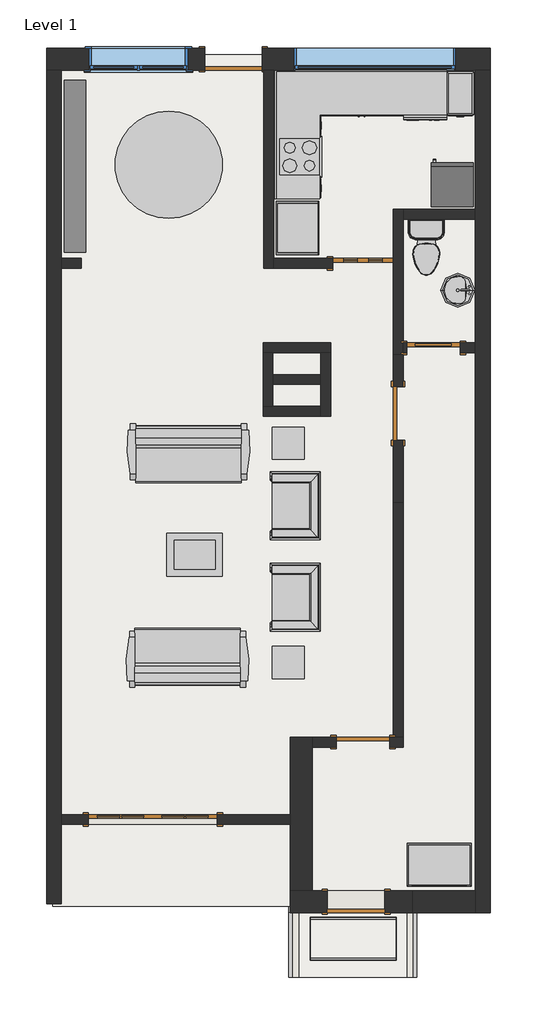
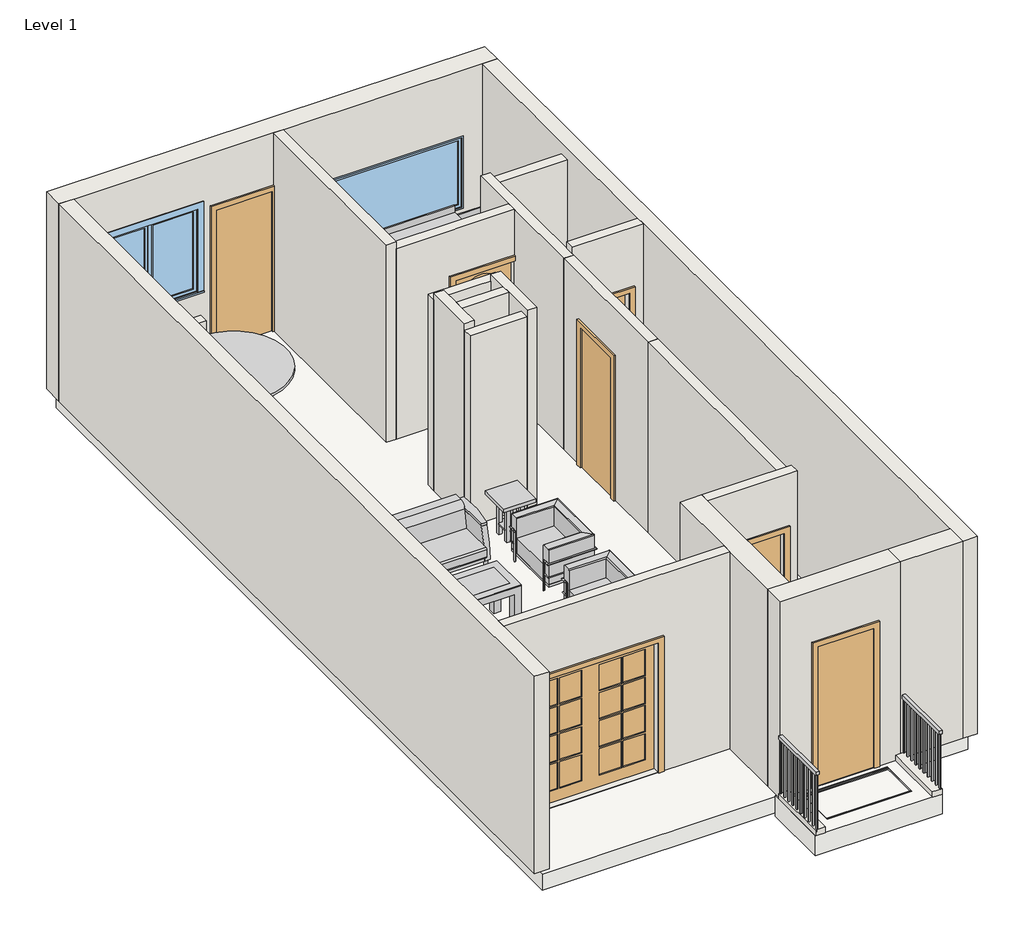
# One storey, incomplete: 23 walls, 16 furniture elements, 7 doors, 5 proxies, 3 slabs, 2 flow terminals, 2 railings, 2 windows.
"""IFC4 building model written with IfcOpenShell, lengths in millimetres."""

from ifc_helpers import new_model, si_unit, frame, origin, origin_with_axes, place, context, project, spatial, polyline, outline, extrude, faceted_brep, transform, mapped, element, save
from components import proxy_a6faaae8, proxy_19aded4c, proxy_34c9623a, proxy_66164f77, walk_off_mat_walk_off_mat_25c2b8c1, m_double_glass_2_1830_x_1981mm_ddff6fa9, door_17772045, door_cd3018f3, door_3bbbd0d9, door_44d7dd15, flow_terminal_d49f872f, toilet_domestic_3d_toilet_domestic_3d_f7549cf7, toilet_domestic_3d_toilet_domestic_3d_183bbd19, furniture_124a5a4a, furniture_03bd3035, furniture_631763f9, chair_corbu_chair_corbu_2764bdef, furniture_1b3be55e, furniture_b1da5ad0, furniture_ad7727fe, furniture_5f90431c, furniture_6c1a5aef, furniture_097b63cf, furniture_fb6977ac, furniture_ffaa0446, handrail_rectangular_64536371, handrail_rectangular_4e646063, window_746a537f, m_casement_dbl_with_trim_d4e5bdbe

model = new_model("IFC4")

# Units and contexts
model_context = context("Model", 3, world=origin())
ifc_project = project(units=[si_unit("LENGTHUNIT", "METRE", prefix="MILLI")], contexts=[model_context])

# Site, building, storey
site = spatial("IfcSite", under=ifc_project)
building = spatial("IfcBuilding", under=site)
storey = spatial("IfcBuildingStorey", under=building, Name="Level 1", Elevation=0.0)

# Proxies
placement = place(None, origin())
proxy_shape = proxy_a6faaae8(model_context)
element("IfcBuildingElementProxy", 1, Name="Cook Top-4 Unit2 : 22\" x 20\"", ObjectType="Cook Top-4 Unit2 : 22\" x 20\"", at=placement, inside=storey, context=model_context, shape_type="MappedRepresentation", body=[
    mapped(proxy_shape, transform((-12696.4909741, 13913.6793907, -20.0), x_axis=(1.0, 0.0, 0.0), y_axis=(0.0, 1.0, 0.0), z_axis=(0.0, 0.0, 1.0))),
])
proxy_2_shape = proxy_19aded4c(model_context)
element("IfcBuildingElementProxy", 2, Name="Dishwasher : 24\" x 26 1/4\" x 34 1/2\"", ObjectType="Dishwasher : 24\" x 26 1/4\" x 34 1/2\"", at=placement, inside=storey, context=model_context, shape_type="MappedRepresentation", body=[
    mapped(proxy_2_shape, transform((-11293.6084426, 14487.8808544, -20.0), x_axis=(1.0000000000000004, 0.0, 0.0), y_axis=(0.0, 1.0000000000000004, 0.0), z_axis=(0.0, 0.0, 1.0))),
])
proxy_3_shape = proxy_34c9623a(model_context)
element("IfcBuildingElementProxy", 3, Name="Oven Single-Built-in : 21\" x 23 1/2\" x 21\"", ObjectType="Oven Single-Built-in : 21\" x 23 1/2\" x 21\"", at=placement, inside=storey, context=model_context, shape_type="MappedRepresentation", body=[
    mapped(proxy_3_shape, transform((-12555.4251152, 13948.854318, -65.0), x_axis=(0.0, 1.0, 0.0), y_axis=(-1.0, 0.0, 0.0), z_axis=(0.0, 0.0, 1.0))),
])
proxy_4_shape = proxy_66164f77(model_context)
element("IfcBuildingElementProxy", 4, Name="Refrigerator : 24\" x 25\" RH", ObjectType="Refrigerator : 24\" x 25\" RH", at=placement, inside=storey, context=model_context, shape_type="MappedRepresentation", body=[
    mapped(proxy_4_shape, transform((-10527.9420026, 13500.5293907, -20.0), x_axis=(-1.0, 0.0, 0.0), y_axis=(0.0, -1.0, 0.0), z_axis=(0.0, 0.0, 1.0))),
])
walk_off_mat_walk_off_mat_shape = walk_off_mat_walk_off_mat_25c2b8c1(model_context)
element("IfcBuildingElementProxy", 5, Name="Walk-Off Mat : Walk-Off Mat", ObjectType="Walk-Off Mat : Walk-Off Mat", at=placement, inside=storey, context=model_context, shape_type="MappedRepresentation", body=[
    mapped(walk_off_mat_walk_off_mat_shape, transform((-11539.3555125, 3554.7734577, 0.0), x_axis=(1.0, 0.0, 0.0), y_axis=(0.0, 1.0, 0.0), z_axis=(0.0, 0.0, 1.0))),
])

# Doors
m_double_glass_2_1830_x_1981mm_shape = m_double_glass_2_1830_x_1981mm_ddff6fa9(model_context)
element("IfcDoor", 6, ObjectType="M_Double-Glass 2 : 1830 x 1981mm", at=placement, inside=storey, context=model_context, shape_type="MappedRepresentation", body=[
    mapped(m_double_glass_2_1830_x_1981mm_shape, transform((-14780.6909741, 4498.6793907, 10.0), x_axis=(1.0, 0.0, 0.0), y_axis=(0.0, 1.0, 0.0), z_axis=(0.0, 0.0, 1.0))),
])
door_shape = door_17772045(model_context)
element("IfcDoor", 7, ObjectType="Single-Decorative 2 : 34\" x 80\"", at=placement, inside=storey, context=model_context, shape_type="MappedRepresentation", body=[
    mapped(door_shape, transform((-11796.4909741, 12398.6793907, 0.0), x_axis=(1.0, 0.0, 0.0), y_axis=(0.0, 1.0, 0.0), z_axis=(0.0, 0.0, 1.0))),
])
door_2_shape = door_cd3018f3(model_context)
element("IfcDoor", 8, ObjectType="Single-Flush : 30\" x 84\"", at=placement, inside=storey, context=model_context, shape_type="MappedRepresentation", body=[
    mapped(door_2_shape, transform((-11796.4909741, 5598.6793907, 0.0), x_axis=(1.0, 0.0, 0.0), y_axis=(0.0, 1.0, 0.0), z_axis=(0.0, 0.0, 1.0))),
])
element("IfcDoor", 9, ObjectType="Single-Flush : 30\" x 84\"", at=placement, inside=storey, context=model_context, shape_type="MappedRepresentation", body=[
    mapped(door_2_shape, transform((-11296.4909741, 10268.6793907, 0.0), x_axis=(0.0, 1.0, 0.0), y_axis=(-1.0, 0.0, 0.0), z_axis=(0.0, 0.0, 1.0))),
])
door_3_shape = door_3bbbd0d9(model_context)
element("IfcDoor", 10, ObjectType="Single-Flush : 32\" x 84\"", at=placement, inside=storey, context=model_context, shape_type="MappedRepresentation", body=[
    mapped(door_3_shape, transform((-11894.8909741, 3330.2793907, 10.0), x_axis=(1.0, 0.0, 0.0), y_axis=(0.0, 1.0, 0.0), z_axis=(0.0, 0.0, 1.0))),
])
element("IfcDoor", 11, ObjectType="Single-Flush : 32\" x 84\"", at=placement, inside=storey, context=model_context, shape_type="MappedRepresentation", body=[
    mapped(door_3_shape, transform((-13636.4909741, 15298.6793907, 0.0), x_axis=(1.0, 0.0, 0.0), y_axis=(0.0, 1.0, 0.0), z_axis=(0.0, 0.0, 1.0))),
])
door_4_shape = door_44d7dd15(model_context)
element("IfcDoor", 12, ObjectType="Single-Panel 1 : 30\" x 80\"", at=placement, inside=storey, context=model_context, shape_type="MappedRepresentation", body=[
    mapped(door_4_shape, transform((-10796.4909741, 11198.6793907, 0.0), x_axis=(-1.0, 0.0, 0.0), y_axis=(0.0, -1.0, 0.0), z_axis=(0.0, 0.0, 1.0))),
])

# Flow terminals
flow_terminal_shape = flow_terminal_d49f872f(model_context)
element("IfcFlowTerminal", 13, ObjectType="Sink Vanity-Round : 19\" x 19\"", at=placement, inside=storey, context=model_context, shape_type="MappedRepresentation", body=[
    mapped(flow_terminal_shape, transform((-10534.9217522, 12115.3311312, -20.0), x_axis=(0.0, -1.0, 0.0), y_axis=(1.0, 0.0, 0.0), z_axis=(0.0, 0.0, 1.0))),
])
toilet_domestic_3d_toilet_domestic_3d_shape = toilet_domestic_3d_toilet_domestic_3d_f7549cf7(model_context)
toilet_domestic_3d_toilet_domestic_3d_2_shape = toilet_domestic_3d_toilet_domestic_3d_183bbd19(model_context)
element("IfcFlowTerminal", 14, ObjectType="Toilet-Domestic-3D : Toilet-Domestic-3D", at=placement, inside=storey, context=model_context, shape_type="MappedRepresentation", body=[
    mapped(toilet_domestic_3d_toilet_domestic_3d_shape, transform((-10896.4909741, 12533.9833633, -20.0), x_axis=(1.0, 0.0, 0.0), y_axis=(0.0, 1.0, 0.0), z_axis=(0.0, 0.0, 1.0))),
    mapped(toilet_domestic_3d_toilet_domestic_3d_2_shape, transform((-10896.4909741, 12533.9833633, -20.0), x_axis=(1.0, 0.0, 0.0), y_axis=(0.0, 1.0, 0.0), z_axis=(0.0, 0.0, 1.0))),
])

# Furniture
furniture_shape = furniture_124a5a4a(model_context)
element("IfcFurniture", 15, ObjectType="Base Cabinet-2 Bin : 15\"", at=placement, inside=storey, context=model_context, shape_type="MappedRepresentation", body=[
    mapped(furniture_shape, transform((-10431.3286791, 15118.2793907, -20.0), x_axis=(1.0, 0.0, 0.0), y_axis=(0.0, 1.0, 0.0), z_axis=(0.0, 0.0, 1.0))),
])
furniture_2_shape = furniture_03bd3035(model_context)
element("IfcFurniture", 16, ObjectType="Base Cabinet-4 Drawers : 12\"", at=placement, inside=storey, context=model_context, shape_type="MappedRepresentation", body=[
    mapped(furniture_2_shape, transform((-13021.7409741, 13448.5416857, -20.0), x_axis=(0.0, 1.0, 0.0), y_axis=(-1.0, 0.0, 0.0), z_axis=(0.0, 0.0, 1.0))),
])
element("IfcFurniture", 17, ObjectType="Base Cabinet-4 Drawers : 12\"", at=placement, inside=storey, context=model_context, shape_type="MappedRepresentation", body=[
    mapped(furniture_2_shape, transform((-13021.0909741, 14339.4416857, -20.0), x_axis=(0.0, 1.0, 0.0), y_axis=(-1.0, 0.0, 0.0), z_axis=(0.0, 0.0, 1.0))),
])
furniture_3_shape = furniture_631763f9(model_context)
element("IfcFurniture", 18, ObjectType="Base Cabinet-Double Door Sink Unit : 48\"", at=placement, inside=storey, context=model_context, shape_type="MappedRepresentation", body=[
    mapped(furniture_3_shape, transform((-11834.4286791, 15118.2793907, -20.0), x_axis=(1.0, 0.0, 0.0), y_axis=(0.0, 1.0, 0.0), z_axis=(0.0, 0.0, 1.0))),
])
chair_corbu_chair_corbu_shape = chair_corbu_chair_corbu_2764bdef(model_context)
element("IfcFurniture", 19, ObjectType="Chair-Corbu : Chair-Corbu", at=placement, inside=storey, context=model_context, shape_type="MappedRepresentation", body=[
    mapped(chair_corbu_chair_corbu_shape, transform((-13223.0680233, 9529.2531612, -20.0), x_axis=(0.0, -1.0, 0.0), y_axis=(1.0, 0.0, 0.0), z_axis=(0.0, 0.0, 1.0))),
])
element("IfcFurniture", 20, ObjectType="Chair-Corbu : Chair-Corbu", at=placement, inside=storey, context=model_context, shape_type="MappedRepresentation", body=[
    mapped(chair_corbu_chair_corbu_shape, transform((-13223.0680233, 8229.2531612, -20.0), x_axis=(0.0, -1.0, 0.0), y_axis=(1.0, 0.0, 0.0), z_axis=(0.0, 0.0, 1.0))),
])
furniture_4_shape = furniture_1b3be55e(model_context)
element("IfcFurniture", 21, ObjectType="Counter Top-L Shaped : 24\" Depth", at=placement, inside=storey, context=model_context, shape_type="MappedRepresentation", body=[
    mapped(furniture_4_shape, transform((-11846.0286791, 15143.6793907, -20.0), x_axis=(1.0, 0.0, 0.0), y_axis=(0.0, 1.0, 0.0), z_axis=(0.0, 0.0, 1.0))),
])
furniture_5_shape = furniture_b1da5ad0(model_context)
element("IfcFurniture", 22, ObjectType="Shelving : 96\" x 12\" x 84\"", at=placement, inside=storey, context=model_context, shape_type="MappedRepresentation", body=[
    mapped(furniture_5_shape, transform((-16193.8909741, 13779.4793907, -20.0), x_axis=(0.0, 1.0, 0.0), y_axis=(-1.0, 0.0, 0.0), z_axis=(0.0, 0.0, 1.0))),
])
furniture_6_shape = furniture_ad7727fe(model_context)
element("IfcFurniture", 23, ObjectType="Sofa-Pensi : 65\"", at=placement, inside=storey, context=model_context, shape_type="MappedRepresentation", body=[
    mapped(furniture_6_shape, transform((-14555.0972241, 9421.5695546, -20.0), x_axis=(1.0, 0.0, 0.0), y_axis=(0.0, 1.0, 0.0), z_axis=(0.0, 0.0, 1.0))),
])
element("IfcFurniture", 24, ObjectType="Sofa-Pensi : 65\"", at=placement, inside=storey, context=model_context, shape_type="MappedRepresentation", body=[
    mapped(furniture_6_shape, transform((-14008.4347241, 7075.7892267, -20.0), x_axis=(-1.0, 0.0, 0.0), y_axis=(0.0, -1.0, 0.0), z_axis=(0.0, 0.0, 1.0))),
])
furniture_7_shape = furniture_5f90431c(model_context)
element("IfcFurniture", 25, ObjectType="Table-Coffee : 31\" x 28\" x 24\"", at=placement, inside=storey, context=model_context, shape_type="MappedRepresentation", body=[
    mapped(furniture_7_shape, transform((-14093.3330222, 8242.2115834, -20.0), x_axis=(0.0, 1.0, 0.0), y_axis=(-1.0, 0.0, 0.0), z_axis=(0.0, 0.0, 1.0))),
])
furniture_8_shape = furniture_6c1a5aef(model_context)
element("IfcFurniture", 26, ObjectType="Table-Dining Round w Chairs : 60\" Diameter", at=placement, inside=storey, context=model_context, shape_type="MappedRepresentation", body=[
    mapped(furniture_8_shape, transform((-14660.1729413, 13983.5580792, -20.0), x_axis=(1.0, 0.0, 0.0), y_axis=(0.0, 1.0, 0.0), z_axis=(0.0, 0.0, 1.0))),
])
furniture_9_shape = furniture_097b63cf(model_context)
element("IfcFurniture", 27, ObjectType="Table-Night Stand : 18\" x 18\" x 24\"", at=placement, inside=storey, context=model_context, shape_type="MappedRepresentation", body=[
    mapped(furniture_9_shape, transform((-13090.2246044, 6501.4793907, -20.0), x_axis=(1.0, 0.0, 0.0), y_axis=(0.0, 1.0, 0.0), z_axis=(0.0, 0.0, 1.0))),
])
element("IfcFurniture", 28, ObjectType="Table-Night Stand : 18\" x 18\" x 24\"", at=placement, inside=storey, context=model_context, shape_type="MappedRepresentation", body=[
    mapped(furniture_9_shape, transform((-13090.2246044, 9613.8793907, -20.0), x_axis=(1.0, 0.0, 0.0), y_axis=(0.0, 1.0, 0.0), z_axis=(0.0, 0.0, 1.0))),
])
furniture_10_shape = furniture_fb6977ac(model_context)
element("IfcFurniture", 29, ObjectType="Tall Cabinet-2 Door-Built in : 30\"", at=placement, inside=storey, context=model_context, shape_type="MappedRepresentation", body=[
    mapped(furniture_10_shape, transform((-13031.7409741, 12881.4916857, -20.0), x_axis=(0.0, 1.0, 0.0), y_axis=(-1.0, 0.0, 0.0), z_axis=(0.0, 0.0, 1.0))),
])
furniture_11_shape = furniture_ffaa0446(model_context)
element("IfcFurniture", 30, ObjectType="Tall Cabinet-Single Door(2) : 36\"", at=placement, inside=storey, context=model_context, shape_type="MappedRepresentation", body=[
    mapped(furniture_11_shape, transform((-10693.9532692, 4158.6793907, -20.0), x_axis=(-1.0, 0.0, 0.0), y_axis=(0.0, -1.0, 0.0), z_axis=(0.0, 0.0, 1.0))),
])

# Railings
handrail_rectangular_shape = handrail_rectangular_64536371(model_context)
element("IfcRailing", 31, ObjectType="Handrail - Rectangular", at=placement, inside=storey, context=model_context, shape_type="MappedRepresentation", body=[
    mapped(handrail_rectangular_shape, transform((0.0, 0.0, 0.0), x_axis=(1.0, 0.0, 0.0), y_axis=(0.0, 1.0, 0.0), z_axis=(0.0, 0.0, 1.0))),
])
handrail_rectangular_2_shape = handrail_rectangular_4e646063(model_context)
element("IfcRailing", 32, ObjectType="Handrail - Rectangular", at=placement, inside=storey, context=model_context, shape_type="MappedRepresentation", body=[
    mapped(handrail_rectangular_2_shape, transform((0.0, 0.0, 0.0), x_axis=(1.0, 0.0, 0.0), y_axis=(0.0, 1.0, 0.0), z_axis=(0.0, 0.0, 1.0))),
])

# Slabs
element("IfcSlab", 33, ObjectType="döşeme", at=placement, inside=storey, context=model_context, shape_type="SweptSolid", body=[
    extrude(outline(polyline([(-10081.4909741, 15363.6793907), (-10081.4909741, 3265.2793907), (-12694.8909741, 3265.2793907), (-16201.4909741, 3265.2793907), (-16201.4909741, 15363.6793907), (-10081.4909741, 15363.6793907)]), holes=[polyline([(-12396.4909741, 11128.6793907), (-13076.4909741, 11128.6793907), (-13076.4909741, 10818.6793907), (-12396.4909741, 10818.6793907), (-12396.4909741, 11128.6793907)]), polyline([(-13076.4909741, 10678.6793907), (-13076.4909741, 10368.6793907), (-12396.4909741, 10368.6793907), (-12396.4909741, 10678.6793907), (-13076.4909741, 10678.6793907)])]), frame((0.0, 0.0, -262.0), z_axis=(0.0, 0.0, 1.0), x_axis=(1.0, 0.0, 0.0)), (0.0, 0.0, 1.0), 242.0),
])
element("IfcSlab", 34, ObjectType="Generic - 12\"", at=placement, inside=storey, context=model_context, shape_type="Brep", body=[
    faceted_brep([(-12849.8909741, 2259.3790009, -304.8), (-12849.8909741, 3259.3790009, -304.8), (-11029.8909741, 3259.3790009, -304.8), (-11029.8909741, 2259.3790009, -304.8), (-12849.8909741, 2259.3790009, 0.0), (-11029.8909741, 2259.3790009, 0.0), (-11029.8909741, 3259.3790009, 0.0), (-12849.8909741, 3259.3790009, 0.0), (-12542.3909741, 3110.2793907, 0.0), (-11323.1909741, 3110.2793907, 0.0), (-11323.1909741, 2500.6793907, 0.0), (-12542.3909741, 2500.6793907, 0.0), (-11323.1909741, 3110.2793907, -25.4), (-12542.3909741, 3110.2793907, -25.4), (-12542.3909741, 2500.6793907, -25.4), (-11323.1909741, 2500.6793907, -25.4)], [[[0, 1, 2, 3]], [[4, 5, 6, 7], [8, 9, 10, 11]], [[1, 0, 4, 7]], [[2, 1, 7, 6]], [[3, 2, 6, 5]], [[0, 3, 5, 4]], [[12, 13, 14, 15]], [[13, 12, 9, 8]], [[14, 13, 8, 11]], [[15, 14, 11, 10]], [[12, 15, 10, 9]]]),
])
element("IfcSlab", 35, ObjectType="Generic - 12\"", at=placement, inside=storey, context=model_context, shape_type="SweptSolid", body=[
    extrude(outline(polyline([(-12396.4909741, 11128.6793907), (-12396.4909741, 10818.6793907), (-13076.4909741, 10818.6793907), (-13076.4909741, 11128.6793907), (-12396.4909741, 11128.6793907)])), frame((0.0, 0.0, -304.8), z_axis=(0.0, 0.0, 1.0), x_axis=(1.0, 0.0, 0.0)), (0.0, 0.0, 1.0), 304.8),
    extrude(outline(polyline([(-12396.4909741, 10678.6793907), (-12396.4909741, 10368.6793907), (-13076.4909741, 10368.6793907), (-13076.4909741, 10678.6793907), (-12396.4909741, 10678.6793907)])), frame((0.0, 0.0, -304.8), z_axis=(0.0, 0.0, 1.0), x_axis=(1.0, 0.0, 0.0)), (0.0, 0.0, 1.0), 304.8),
])

# Walls
element("IfcWall", 36, ObjectType="dışduvarlar", at=placement, inside=storey, context=model_context, shape_type="Brep", body=[
    faceted_brep([(-13230.0909741, 15143.6793907, 2133.6), (-13230.0909741, 15143.6793907, 0.0), (-13206.4909741, 15143.6793907, 0.0), (-13066.4909741, 15143.6793907, 0.0), (-10201.4909741, 15143.6793907, 0.0), (-9991.4909741, 15143.6793907, 0.0), (-9991.4909741, 15143.6793907, 3000.0), (-10201.4909741, 15143.6793907, 3000.0), (-13066.4909741, 15143.6793907, 3000.0), (-13206.4909741, 15143.6793907, 3000.0), (-16081.4909741, 15143.6793907, 3000.0), (-16291.4909741, 15143.6793907, 3000.0), (-16291.4909741, 15143.6793907, 0.0), (-16081.4909741, 15143.6793907, 0.0), (-14042.8909741, 15143.6793907, 0.0), (-14042.8909741, 15143.6793907, 2133.6), (-12776.4909741, 15143.6793907, 2000.0), (-10476.4909741, 15143.6793907, 2000.0), (-10476.4909741, 15143.6793907, 900.0), (-12776.4909741, 15143.6793907, 900.0), (-15686.4909741, 15143.6793907, 2250.0), (-14286.4909741, 15143.6793907, 2250.0), (-14286.4909741, 15143.6793907, 950.0), (-15686.4909741, 15143.6793907, 950.0), (-9991.4909741, 15453.6793907, 0.0), (-13230.0909741, 15453.6793907, 0.0), (-13230.0909741, 15453.6793907, 2133.6), (-14042.8909741, 15453.6793907, 2133.6), (-14042.8909741, 15453.6793907, 0.0), (-16291.4909741, 15453.6793907, 0.0), (-16291.4909741, 15453.6793907, 3000.0), (-9991.4909741, 15453.6793907, 3000.0), (-12776.4909741, 15453.6793907, 2000.0), (-12776.4909741, 15453.6793907, 900.0), (-10476.4909741, 15453.6793907, 900.0), (-10476.4909741, 15453.6793907, 2000.0), (-15686.4909741, 15453.6793907, 2250.0), (-15686.4909741, 15453.6793907, 950.0), (-14286.4909741, 15453.6793907, 950.0), (-14286.4909741, 15453.6793907, 2250.0)], [[[0, 1, 2, 3, 4, 5, 6, 7, 8, 9, 10, 11, 12, 13, 14, 15], [16, 17, 18, 19], [20, 21, 22, 23]], [[24, 25, 26, 27, 28, 29, 30, 31], [32, 33, 34, 35], [36, 37, 38, 39]], [[14, 13, 12, 29, 28]], [[5, 4, 3, 2, 1, 25, 24]], [[11, 10, 9, 8, 7, 6, 31, 30]], [[6, 5, 24, 31]], [[12, 11, 30, 29]], [[33, 32, 16, 19]], [[34, 33, 19, 18]], [[35, 34, 18, 17]], [[32, 35, 17, 16]], [[26, 25, 1, 0]], [[27, 26, 0, 15]], [[28, 27, 15, 14]], [[37, 36, 20, 23]], [[38, 37, 23, 22]], [[39, 38, 22, 21]], [[36, 39, 21, 20]]]),
])
element("IfcWall", 37, ObjectType="dışduvarlar 2", at=placement, inside=storey, context=model_context, shape_type="Brep", body=[
    faceted_brep([(-10201.4909741, 15143.6793907, 0.0), (-10201.4909741, 13168.6793907, 0.0), (-10201.4909741, 13028.6793907, 0.0), (-10201.4909741, 11268.6793907, 0.0), (-10201.4909741, 11128.6793907, 0.0), (-10201.4909741, 3485.2793907, 0.0), (-10201.4909741, 3175.2793907, 0.0), (-10201.4909741, 3175.2793907, 3000.0), (-10201.4909741, 3485.2793907, 3000.0), (-10201.4909741, 11128.6793907, 3000.0), (-10201.4909741, 11268.6793907, 3000.0), (-10201.4909741, 15143.6793907, 3000.0), (-9991.4909741, 15143.6793907, 0.0), (-9991.4909741, 15143.6793907, 3000.0), (-9991.4909741, 3175.2793907, 3000.0), (-9991.4909741, 3175.2793907, 0.0)], [[[0, 1, 2, 3, 4, 5, 6, 7, 8, 9, 10, 11]], [[12, 13, 14, 15]], [[6, 5, 4, 3, 2, 1, 0, 12, 15]], [[11, 10, 9, 8, 7, 14, 13]], [[7, 6, 15, 14]], [[0, 11, 13, 12]]]),
])
element("IfcWall", 38, ObjectType="dışduvarlar", at=placement, inside=storey, context=model_context, shape_type="Brep", body=[
    faceted_brep([(-10201.4909741, 3485.2793907, 0.0), (-11099.8909741, 3485.2793907, 0.0), (-11099.8909741, 3485.2793907, 3000.0), (-10201.4909741, 3485.2793907, 3000.0), (-10201.4909741, 3175.2793907, 0.0), (-10201.4909741, 3175.2793907, 3000.0), (-11099.8909741, 3175.2793907, 3000.0), (-11099.8909741, 3175.2793907, 0.0), (-11029.8909741, 3175.2793907, 0.0)], [[[0, 1, 2, 3]], [[4, 5, 6, 7, 8]], [[1, 0, 4, 8, 7]], [[3, 2, 6, 5]], [[0, 3, 5, 4]], [[1, 7, 6, 2]]]),
])
element("IfcWall", 39, ObjectType="dışduvarlar 2", at=placement, inside=storey, context=model_context, shape_type="Brep", body=[
    faceted_brep([(-16081.4909741, 3298.6793907, 0.0), (-16081.4909741, 4428.6793907, 0.0), (-16081.4909741, 4568.6793907, 0.0), (-16081.4909741, 12328.6793907, 0.0), (-16081.4909741, 12468.6793907, 0.0), (-16081.4909741, 15143.6793907, 0.0), (-16081.4909741, 15143.6793907, 3000.0), (-16081.4909741, 4568.6793907, 3000.0), (-16081.4909741, 4428.6793907, 3000.0), (-16081.4909741, 3298.6793907, 3000.0), (-16291.4909741, 3298.6793907, 0.0), (-16291.4909741, 3298.6793907, 3000.0), (-16291.4909741, 15143.6793907, 3000.0), (-16291.4909741, 15143.6793907, 0.0)], [[[0, 1, 2, 3, 4, 5, 6, 7, 8, 9]], [[10, 11, 12, 13]], [[5, 4, 3, 2, 1, 0, 10, 13]], [[9, 8, 7, 6, 12, 11]], [[0, 9, 11, 10]], [[6, 5, 13, 12]]]),
])
element("IfcWall", 40, ObjectType="içduvar", at=placement, inside=storey, context=model_context, shape_type="SweptSolid", body=[
    extrude(outline(polyline([(0.0, -16081.4909741), (0.0, -12827.3909741), (3000.0, -12827.3909741), (3000.0, -16081.4909741), (0.0, -16081.4909741)]), holes=[polyline([(1991.0, -13865.6909741), (10.0, -13865.6909741), (10.0, -15695.6909741), (1991.0, -15695.6909741), (1991.0, -13865.6909741)])]), frame((0.0, 4428.6793907, 0.0), z_axis=(0.0, 1.0, 0.0), x_axis=(0.0, 0.0, 1.0)), (0.0, 0.0, 1.0), 140.0),
])
element("IfcWall", 41, ObjectType="dışduvarlar", at=placement, inside=storey, context=model_context, shape_type="Brep", body=[
    faceted_brep([(-12517.3909741, 3485.2793907, 3000.0), (-12517.3909741, 3485.2793907, 0.0), (-12517.3909741, 5528.6793907, 0.0), (-12517.3909741, 5668.6793907, 0.0), (-12517.3909741, 5668.6793907, 3000.0), (-12517.3909741, 5528.6793907, 3000.0), (-12827.3909741, 3485.2793907, 0.0), (-12827.3909741, 3485.2793907, 3000.0), (-12827.3909741, 4428.6793907, 3000.0), (-12827.3909741, 4568.6793907, 3000.0), (-12827.3909741, 5668.6793907, 3000.0), (-12827.3909741, 5668.6793907, 0.0), (-12827.3909741, 4568.6793907, 0.0), (-12827.3909741, 4428.6793907, 0.0)], [[[0, 1, 2, 3, 4, 5]], [[6, 7, 8, 9, 10, 11, 12, 13]], [[3, 2, 1, 6, 13, 12, 11]], [[0, 5, 4, 10, 9, 8, 7]], [[4, 3, 11, 10]], [[0, 7, 6, 1]]]),
])
element("IfcWall", 42, ObjectType="içduvar", at=placement, inside=storey, context=model_context, shape_type="Brep", body=[
    faceted_brep([(-11415.4909741, 5528.6793907, 2133.6), (-11415.4909741, 5528.6793907, 0.0), (-11226.4909741, 5528.6793907, 0.0), (-11226.4909741, 5528.6793907, 3000.0), (-12517.3909741, 5528.6793907, 3000.0), (-12517.3909741, 5528.6793907, 0.0), (-12177.4909741, 5528.6793907, 0.0), (-12177.4909741, 5528.6793907, 2133.6), (-11226.4909741, 5668.6793907, 0.0), (-11366.4909741, 5668.6793907, 0.0), (-11415.4909741, 5668.6793907, 0.0), (-11415.4909741, 5668.6793907, 2133.6), (-12177.4909741, 5668.6793907, 2133.6), (-12177.4909741, 5668.6793907, 0.0), (-12517.3909741, 5668.6793907, 0.0), (-12517.3909741, 5668.6793907, 3000.0), (-11226.4909741, 5668.6793907, 3000.0), (-11226.4909741, 5668.6793907, 2900.0)], [[[0, 1, 2, 3, 4, 5, 6, 7]], [[8, 9, 10, 11, 12, 13, 14, 15, 16, 17]], [[2, 1, 10, 9, 8]], [[6, 5, 14, 13]], [[4, 3, 16, 15]], [[5, 4, 15, 14]], [[3, 2, 8, 17, 16]], [[11, 10, 1, 0]], [[12, 11, 0, 7]], [[13, 12, 7, 6]]]),
])
element("IfcWall", 43, ObjectType="içduvar", at=placement, inside=storey, context=model_context, shape_type="SweptSolid", body=[
    extrude(outline(polyline([(-15796.4909741, 12328.6793907), (-16081.4909741, 12328.6793907), (-16081.4909741, 12468.6793907), (-15796.4909741, 12468.6793907), (-15796.4909741, 12328.6793907)])), origin_with_axes(), (0.0, 0.0, 1.0), 2758.0),
])
element("IfcWall", 44, ObjectType="içduvar", at=placement, inside=storey, context=model_context, shape_type="Brep", body=[
    faceted_brep([(-11366.4909741, 11098.6793907, 0.0), (-11366.4909741, 11098.6793907, 2900.0), (-11366.4909741, 12328.6793907, 2900.0), (-11366.4909741, 12468.6793907, 2900.0), (-11366.4909741, 13168.6793907, 2900.0), (-11366.4909741, 13168.6793907, 0.0), (-11366.4909741, 12468.6793907, 0.0), (-11366.4909741, 12468.6793907, 2133.6), (-11366.4909741, 12328.6793907, 2133.6), (-11366.4909741, 12328.6793907, 0.0), (-11226.4909741, 11098.6793907, 0.0), (-11226.4909741, 11128.6793907, 0.0), (-11226.4909741, 11268.6793907, 0.0), (-11226.4909741, 13028.6793907, 0.0), (-11226.4909741, 13168.6793907, 0.0), (-11226.4909741, 13168.6793907, 2826.4715903), (-11226.4909741, 13168.6793907, 2900.0), (-11226.4909741, 11098.6793907, 2900.0), (-11364.6909741, 12328.6793907, 0.0), (-11364.6909741, 12468.6793907, 0.0), (-11364.6909741, 12328.6793907, 2133.6), (-11364.6909741, 12468.6793907, 2133.6)], [[[0, 1, 2, 3, 4, 5, 6, 7, 8, 9]], [[10, 11, 12, 13, 14, 15, 16, 17]], [[14, 13, 12, 11, 10, 0, 9, 18, 19, 6, 5]], [[1, 0, 10, 17]], [[4, 3, 2, 1, 17, 16]], [[5, 4, 16, 15, 14]], [[20, 18, 9, 8]], [[19, 21, 7, 6]], [[18, 20, 21, 19]], [[21, 20, 8, 7]]]),
])
element("IfcWall", 45, ObjectType="içduvar", at=placement, inside=storey, context=model_context, shape_type="Brep", body=[
    faceted_brep([(-13066.4909741, 12328.6793907, 0.0), (-13066.4909741, 12468.6793907, 0.0), (-13066.4909741, 15143.6793907, 0.0), (-13066.4909741, 15143.6793907, 3000.0), (-13066.4909741, 12328.6793907, 3000.0), (-13066.4909741, 12328.6793907, 2900.0), (-13206.4909741, 12328.6793907, 0.0), (-13206.4909741, 12328.6793907, 3000.0), (-13206.4909741, 15143.6793907, 3000.0), (-13206.4909741, 15143.6793907, 0.0)], [[[0, 1, 2, 3, 4, 5]], [[6, 7, 8, 9]], [[2, 1, 0, 6, 9]], [[4, 3, 8, 7]], [[0, 5, 4, 7, 6]], [[3, 2, 9, 8]]]),
])
element("IfcWall", 46, ObjectType="içduvar", at=placement, inside=storey, context=model_context, shape_type="SweptSolid", body=[
    extrude(outline(polyline([(2900.0, -11366.4909741), (2900.0, -13066.4909741), (0.0, -13066.4909741), (0.0, -12228.2909741), (2133.6, -12228.2909741), (2133.6, -11366.4909741), (2900.0, -11366.4909741)])), frame((0.0, 12328.6793907, 0.0), z_axis=(0.0, 1.0, 0.0), x_axis=(0.0, 0.0, 1.0)), (0.0, 0.0, 1.0), 140.0),
])
element("IfcWall", 47, ObjectType="içduvar", at=placement, inside=storey, context=model_context, shape_type="SweptSolid", body=[
    extrude(outline(polyline([(-11226.4909741, 13168.6793907), (-10201.4909741, 13168.6793907), (-10201.4909741, 13028.6793907), (-11226.4909741, 13028.6793907), (-11226.4909741, 13168.6793907)])), origin_with_axes(), (0.0, 0.0, 1.0), 2826.4715903),
])
element("IfcWall", 48, ObjectType="içduvar", at=placement, inside=storey, context=model_context, shape_type="SweptSolid", body=[
    extrude(outline(polyline([(0.0, -11226.4909741), (0.0, -11177.4909741), (2032.0, -11177.4909741), (2032.0, -10415.4909741), (0.0, -10415.4909741), (0.0, -10201.4909741), (3000.0, -10201.4909741), (3000.0, -11226.4909741), (0.0, -11226.4909741)])), frame((0.0, 11128.6793907, 0.0), z_axis=(0.0, 1.0, 0.0), x_axis=(0.0, 0.0, 1.0)), (0.0, 0.0, 1.0), 140.0),
])
element("IfcWall", 49, ObjectType="dışduvarlar", at=placement, inside=storey, context=model_context, shape_type="Brep", body=[
    faceted_brep([(-11099.8909741, 3485.2793907, 3000.0), (-11099.8909741, 3485.2793907, 0.0), (-12517.3909741, 3485.2793907, 0.0), (-12827.3909741, 3485.2793907, 0.0), (-12827.3909741, 3485.2793907, 3000.0), (-12517.3909741, 3485.2793907, 3000.0), (-12301.2909741, 3485.2793907, 10.0), (-11488.4909741, 3485.2793907, 10.0), (-11488.4909741, 3485.2793907, 2143.6), (-12301.2909741, 3485.2793907, 2143.6), (-11099.8909741, 3175.2793907, 0.0), (-11099.8909741, 3175.2793907, 3000.0), (-12827.3909741, 3175.2793907, 3000.0), (-12827.3909741, 3175.2793907, 0.0), (-12706.1909741, 3175.2793907, 0.0), (-11169.8909741, 3175.2793907, 0.0), (-12301.2909741, 3175.2793907, 10.0), (-12301.2909741, 3175.2793907, 2143.6), (-11488.4909741, 3175.2793907, 2143.6), (-11488.4909741, 3175.2793907, 10.0)], [[[0, 1, 2, 3, 4, 5], [6, 7, 8, 9]], [[10, 11, 12, 13, 14, 15], [16, 17, 18, 19]], [[3, 2, 1, 10, 15, 14, 13]], [[0, 5, 4, 12, 11]], [[0, 11, 10, 1]], [[3, 13, 12, 4]], [[7, 6, 16, 19]], [[8, 7, 19, 18]], [[9, 8, 18, 17]], [[6, 9, 17, 16]]]),
])
element("IfcWall", 50, ObjectType="içduvar", at=placement, inside=storey, context=model_context, shape_type="Brep", body=[
    faceted_brep([(-13216.4909741, 11128.6793907, 0.0), (-13216.4909741, 10368.6793907, 0.0), (-13216.4909741, 10368.6793907, 2900.0), (-13216.4909741, 10368.6793907, 3000.0), (-13216.4909741, 11128.6793907, 3000.0), (-13216.4909741, 11128.6793907, 2900.0), (-13076.4909741, 11128.6793907, 0.0), (-13076.4909741, 11128.6793907, 3000.0), (-13076.4909741, 10818.6793907, 3000.0), (-13076.4909741, 10678.6793907, 3000.0), (-13076.4909741, 10368.6793907, 3000.0), (-13076.4909741, 10368.6793907, 0.0), (-13076.4909741, 10678.6793907, 0.0), (-13076.4909741, 10818.6793907, 0.0)], [[[0, 1, 2, 3, 4, 5]], [[6, 7, 8, 9, 10, 11, 12, 13]], [[1, 0, 6, 13, 12, 11]], [[4, 3, 10, 9, 8, 7]], [[3, 2, 1, 11, 10]], [[0, 5, 4, 7, 6]]]),
])
element("IfcWall", 51, ObjectType="içduvar", at=placement, inside=storey, context=model_context, shape_type="Brep", body=[
    faceted_brep([(-13216.4909741, 11128.6793907, 0.0), (-13076.4909741, 11128.6793907, 0.0), (-12396.4909741, 11128.6793907, 0.0), (-12256.4909741, 11128.6793907, 0.0), (-12256.4909741, 11128.6793907, 2900.0), (-13216.4909741, 11128.6793907, 2900.0), (-13216.4909741, 11268.6793907, 0.0), (-13216.4909741, 11268.6793907, 2900.0), (-12256.4909741, 11268.6793907, 2900.0), (-12256.4909741, 11268.6793907, 0.0)], [[[0, 1, 2, 3, 4, 5]], [[6, 7, 8, 9]], [[3, 2, 1, 0, 6, 9]], [[5, 4, 8, 7]], [[4, 3, 9, 8]], [[0, 5, 7, 6]]]),
])
element("IfcWall", 52, ObjectType="içduvar", at=placement, inside=storey, context=model_context, shape_type="Brep", body=[
    faceted_brep([(-12396.4909741, 11128.6793907, 0.0), (-12396.4909741, 10818.6793907, 0.0), (-12396.4909741, 10678.6793907, 0.0), (-12396.4909741, 10368.6793907, 0.0), (-12396.4909741, 10228.6793907, 0.0), (-12396.4909741, 10228.6793907, 2900.0), (-12396.4909741, 10228.6793907, 3000.0), (-12396.4909741, 10678.6793907, 3000.0), (-12396.4909741, 10818.6793907, 3000.0), (-12396.4909741, 11128.6793907, 3000.0), (-12256.4909741, 11128.6793907, 0.0), (-12256.4909741, 11128.6793907, 2900.0), (-12256.4909741, 11128.6793907, 3000.0), (-12256.4909741, 10228.6793907, 3000.0), (-12256.4909741, 10228.6793907, 0.0)], [[[0, 1, 2, 3, 4, 5, 6, 7, 8, 9]], [[10, 11, 12, 13, 14]], [[4, 3, 2, 1, 0, 10, 14]], [[9, 8, 7, 6, 13, 12]], [[6, 5, 4, 14, 13]], [[0, 9, 12, 11, 10]]]),
])
element("IfcWall", 53, ObjectType="içduvar", at=placement, inside=storey, context=model_context, shape_type="Brep", body=[
    faceted_brep([(-12396.4909741, 10368.6793907, 0.0), (-13076.4909741, 10368.6793907, 0.0), (-13216.4909741, 10368.6793907, 0.0), (-13216.4909741, 10368.6793907, 2900.0), (-12396.4909741, 10368.6793907, 2900.0), (-12396.4909741, 10228.6793907, 0.0), (-12396.4909741, 10228.6793907, 2900.0), (-13216.4909741, 10228.6793907, 2900.0), (-13216.4909741, 10228.6793907, 0.0)], [[[0, 1, 2, 3, 4]], [[5, 6, 7, 8]], [[2, 1, 0, 5, 8]], [[4, 3, 7, 6]], [[3, 2, 8, 7]], [[0, 4, 6, 5]]]),
])
element("IfcWall", 54, ObjectType="içduvar", at=placement, inside=storey, context=model_context, shape_type="SweptSolid", body=[
    extrude(outline(polyline([(-12396.4909741, 10678.6793907), (-13076.4909741, 10678.6793907), (-13076.4909741, 10818.6793907), (-12396.4909741, 10818.6793907), (-12396.4909741, 10678.6793907)])), origin_with_axes(), (0.0, 0.0, 1.0), 3000.0),
])
element("IfcWall", 55, ObjectType="içduvar", at=placement, inside=storey, context=model_context, shape_type="Brep", body=[
    faceted_brep([(-12846.1909741, 3175.2793907, 0.0), (-12846.1909741, 2259.3790009, 0.0), (-12846.1909741, 2259.3790009, 85.0), (-12846.1909741, 3175.2793907, 85.0), (-12706.1909741, 3175.2793907, 0.0), (-12706.1909741, 3175.2793907, 85.0), (-12706.1909741, 2259.3790009, 85.0), (-12706.1909741, 2259.3790009, 0.0), (-12827.3909741, 3175.2793907, 0.0)], [[[0, 1, 2, 3]], [[4, 5, 6, 7]], [[1, 0, 8, 4, 7]], [[2, 1, 7, 6]], [[3, 2, 6, 5]], [[0, 3, 5, 4, 8]]]),
])
element("IfcWall", 56, ObjectType="içduvar", at=placement, inside=storey, context=model_context, shape_type="Brep", body=[
    faceted_brep([(-11169.8909741, 3175.2793907, 0.0), (-11169.8909741, 2255.2793907, 0.0), (-11169.8909741, 2255.2793907, 85.0), (-11169.8909741, 3175.2793907, 85.0), (-11029.8909741, 3175.2793907, 0.0), (-11029.8909741, 3175.2793907, 85.0), (-11029.8909741, 2255.2793907, 85.0), (-11029.8909741, 2255.2793907, 0.0), (-11099.8909741, 3175.2793907, 0.0)], [[[0, 1, 2, 3]], [[4, 5, 6, 7]], [[1, 0, 8, 4, 7]], [[2, 1, 7, 6]], [[3, 2, 6, 5]], [[0, 3, 5, 4, 8]]]),
])
element("IfcWall", 57, ObjectType="içduvar", at=placement, inside=storey, context=model_context, shape_type="SweptSolid", body=[
    extrude(outline(polyline([(11098.6793907, 0.0), (10649.6793907, 0.0), (10649.6793907, 2133.6), (9887.6793907, 2133.6), (9887.6793907, 0.0), (8998.6793907, 0.0), (8998.6793907, 2900.0), (11098.6793907, 2900.0), (11098.6793907, 0.0)])), frame((-11366.4909741, 0.0, 0.0), z_axis=(1.0, 0.0, 0.0), x_axis=(0.0, 1.0, 0.0)), (0.0, 0.0, 1.0), 140.0),
])
element("IfcWall", 58, ObjectType="içduvar", at=placement, inside=storey, context=model_context, shape_type="SweptSolid", body=[
    extrude(outline(polyline([(-11366.4909741, 5668.6793907), (-11366.4909741, 8998.6793907), (-11226.4909741, 8998.6793907), (-11226.4909741, 5668.6793907), (-11366.4909741, 5668.6793907)])), origin_with_axes(), (0.0, 0.0, 1.0), 2900.0),
])

# Windows
window_shape = window_746a537f(model_context)
element("IfcWindow", 59, ObjectType="Fixed : 36\" x 72\"", at=placement, inside=storey, context=model_context, shape_type="MappedRepresentation", body=[
    mapped(window_shape, transform((-11664.5909741, 15298.6793907, 300.0), x_axis=(-1.0, 0.0, 0.0), y_axis=(0.0, -1.0, 0.0), z_axis=(0.0, 0.0, 1.0))),
])
m_casement_dbl_with_trim_shape = m_casement_dbl_with_trim_d4e5bdbe(model_context)
element("IfcWindow", 60, ObjectType="M_Casement Dbl with Trim : Pencere Özel İmalat", at=placement, inside=storey, context=model_context, shape_type="MappedRepresentation", body=[
    mapped(m_casement_dbl_with_trim_shape, transform((-14986.4909741, 15317.7293907, 100.0), x_axis=(-1.0, 0.0, 0.0), y_axis=(0.0, -1.0, 0.0), z_axis=(0.0, 0.0, 1.0))),
])

save(model, "model.ifc")
